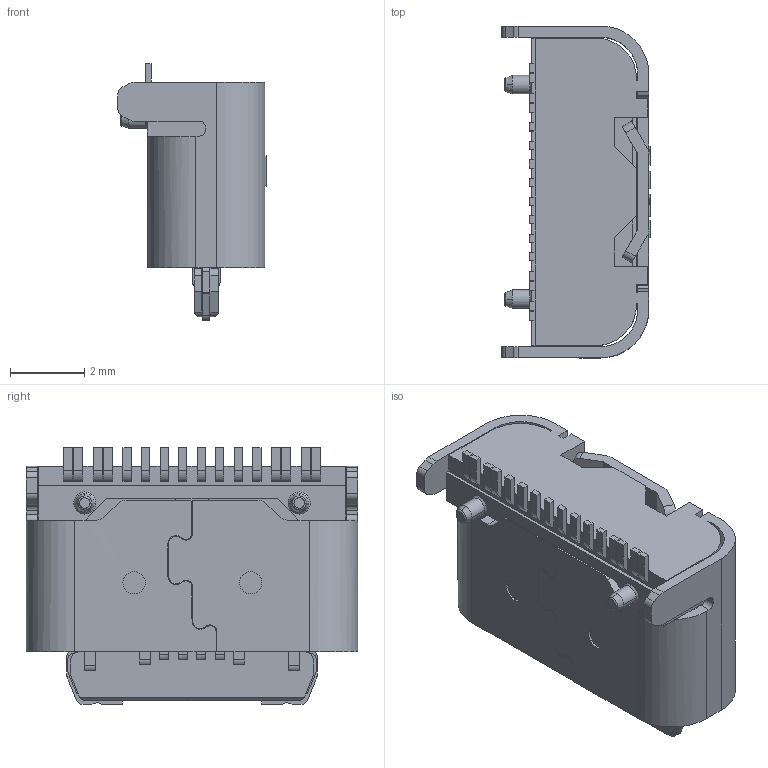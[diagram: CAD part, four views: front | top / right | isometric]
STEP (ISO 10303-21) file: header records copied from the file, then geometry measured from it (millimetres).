
FILE_DESCRIPTION (( 'STEP AP214' ), '1' );
FILE_NAME ('U5426-16PNW5.0L.STEP', '2026-06-02T09:09:08', ( '' ), ( '' ), 'SwSTEP 2.0', 'SolidWorks 2024', '' );
FILE_SCHEMA (( 'AUTOMOTIVE_DESIGN' ));
Length unit declared in the file: millimetre
Products named in the file (1): U5426-16PNW5.0L
Bounding box: 3.99 x 8.94 x 6.92 mm (x, y, z)
Volume: 90 mm3; surface area: 391.5 mm2
Topology: 1 solids, 19 shells, 837 faces, 2355 edges, 1547 vertices
Faces by surface type: plane 572, cylinder 213, bspline 40, cone 12
Entity records: 28757 total; most frequent: CARTESIAN_POINT 7176, ORIENTED_EDGE 4710, DIRECTION 4208, EDGE_CURVE 2355, VECTOR 1786, LINE 1786, VERTEX_POINT 1547, AXIS2_PLACEMENT_3D 1211
